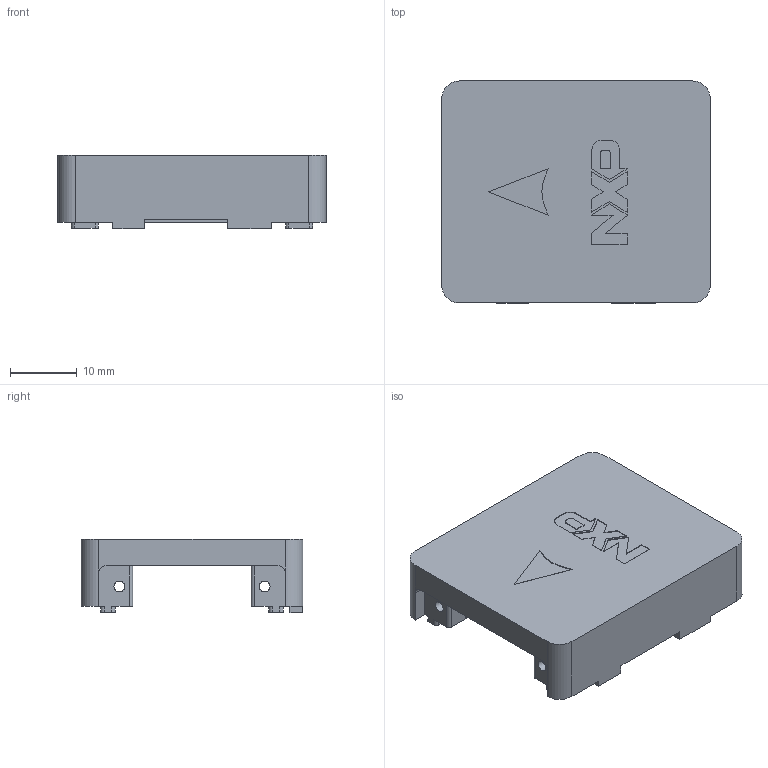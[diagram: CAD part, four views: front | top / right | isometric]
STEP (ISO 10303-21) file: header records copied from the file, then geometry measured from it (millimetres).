
FILE_DESCRIPTION(/* description */ (''),/* implementation_level */ '2;1');
FILE_NAME(/* name */ '800-10092 ENCLOSURE, VMU-RT1176 IMU CASE LID, ALUMINUM.step',/* time_stamp */ '2025-07-22T13:31:25-06:00',/* author */ (''),/* organization */ (''),/* preprocessor_version */ 'ST-DEVELOPER v20.1',/* originating_system */ 'Autodesk Translation Framework v14.10.0.0',/* authorisation */ '');
FILE_SCHEMA (('AUTOMOTIVE_DESIGN { 1 0 10303 214 3 1 1 }'));
Length unit declared in the file: millimetre
Products named in the file (1): 800-10092 ENCLOSURE, VMU-RT1176 IMU CASE LID, ALUMINUM
Bounding box: 40.3 x 33.3 x 11.05 mm (x, y, z)
Volume: 4884.6 mm3; surface area: 4903.6 mm2
Topology: 1 solids, 1 shells, 151 faces, 434 edges, 290 vertices
Faces by surface type: plane 93, cylinder 58
Full cylindrical faces by diameter (mm): 1.623 x4
Entity records: 5027 total; most frequent: CARTESIAN_POINT 876, ORIENTED_EDGE 868, DIRECTION 854, EDGE_CURVE 434, LINE 318, VECTOR 318, VERTEX_POINT 290, AXIS2_PLACEMENT_3D 268
